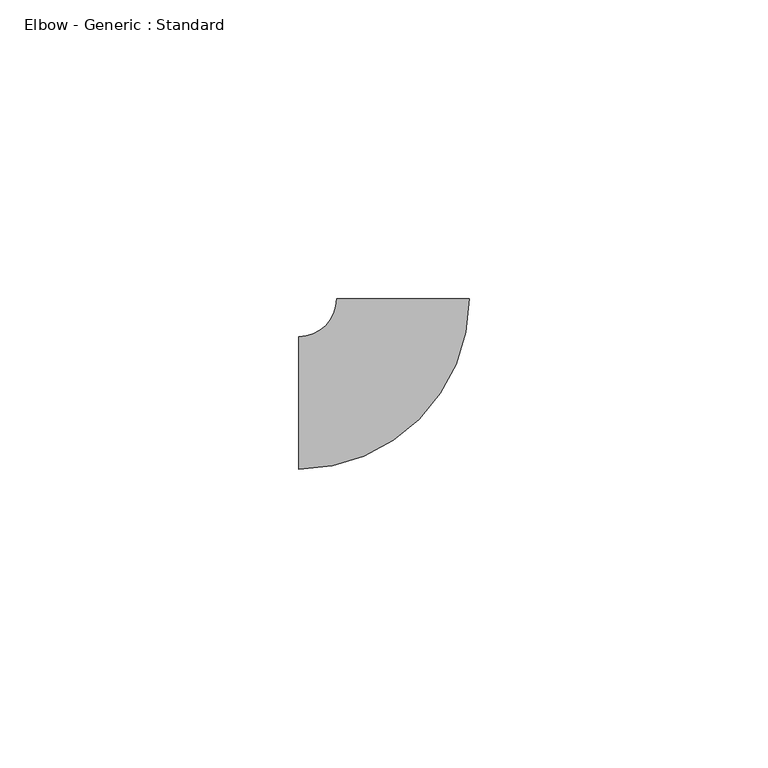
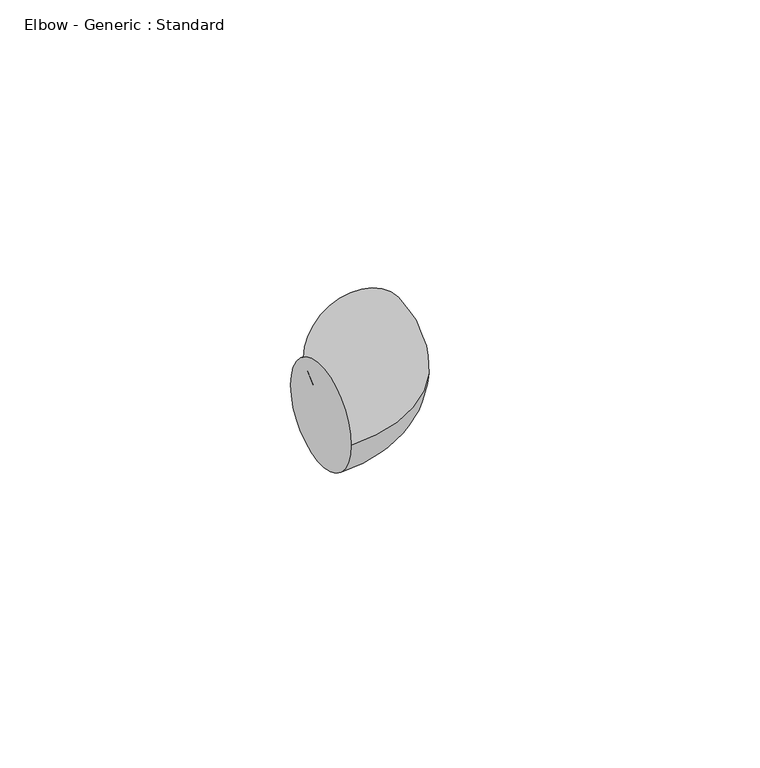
"""IFC4 building model written with IfcOpenShell, lengths in millimetres: pipe fitting geometry, Elbow - Generic : Standard."""

from ifc_helpers import new_model, si_unit, point, frame, origin, place, context, project, spatial, circle_curve, ellipse_curve, trimmed, source, transform, mapped, element, save
from ifc_brep_helpers import plane_surface, revolved_surface, advanced_brep


def elbow_generic_standard_9ba8e076(model_context):
    return source(origin(), model_context, "Body", "AdvancedBrep", [
        advanced_brep(
        [(-17.4375, -11.0875, 0.0), (-17.4375, 11.0875, 0.0), (11.0875, 17.4375, 0.0), (-11.0875, 17.4375, 0.0)],
        [
            (0, 1, circle_curve(frame((-17.4375, 0.0, 0.0), z_axis=(-1.0, 0.0, 0.0), x_axis=(0.0, 1.0, 0.0)), 11.0875)),
            (1, 0, circle_curve(frame((-17.4375, 0.0, 0.0), z_axis=(-1.0, 0.0, 0.0), x_axis=(0.0, 1.0, 0.0)), 11.0875)),
            (2, 3, circle_curve(frame((0.0, 17.4375, 0.0), z_axis=(0.0, 1.0, 0.0), x_axis=(-1.0, 0.0, 0.0)), 11.0875)),
            (3, 2, circle_curve(frame((0.0, 17.4375, 0.0), z_axis=(0.0, 1.0, 0.0), x_axis=(-1.0, 0.0, 0.0)), 11.0875)),
            (3, 1, circle_curve(frame((-17.4375, 17.4375, 0.0), z_axis=(0.0, 0.0, -1.0), x_axis=(0.0, -1.0, 0.0)), 6.35)),
            (0, 2, circle_curve(frame((-17.4375, 17.4375, 0.0), z_axis=(0.0, 0.0, 1.0), x_axis=(0.0, -1.0, 0.0)), 28.525)),
        ],
        [
            plane_surface(frame((-17.4375, 0.0, 0.0), z_axis=(-1.0, 0.0, 0.0), x_axis=(0.0, 0.0, 1.0))),
            plane_surface(frame((0.0, 17.4375, 0.0), z_axis=(0.0, 1.0, 0.0), x_axis=(0.0, 0.0, 1.0))),
            revolved_surface(trimmed(ellipse_curve(frame((-17.4375, 0.0, 0.0), z_axis=(-1.0, 0.0, 0.0), x_axis=(0.0, 1.0, 0.0)), 11.0875, 11.0875), [point((-17.4375, -11.0875, 0.0))], [point((-17.4375, 11.0875, 0.0))], True, "CARTESIAN"), (-17.4375, 17.4375, 0.0), (0.0, 0.0, 1.0)),
            revolved_surface(trimmed(ellipse_curve(frame((-17.4375, 0.0, 0.0), z_axis=(-1.0, 0.0, 0.0), x_axis=(0.0, 1.0, 0.0)), 11.0875, 11.0875), [point((-17.4375, 11.0875, 0.0))], [point((-17.4375, -11.0875, 0.0))], True, "CARTESIAN"), (-17.4375, 17.4375, 0.0), (0.0, 0.0, 1.0)),
        ],
        [
            (0, [[1, 2]]),
            (1, [[3, 4]]),
            (2, [[5, -1, 6, -4]]),
            (3, [[-6, -2, -5, -3]]),
        ],
    ),
    ])


if __name__ == "__main__":
    model = new_model("IFC4")
    model_context = context("Model", 3, world=origin())
    ifc_project = project(units=[si_unit("LENGTHUNIT", "METRE", prefix="MILLI")], contexts=[model_context])
    site = spatial("IfcSite", under=ifc_project)
    building = spatial("IfcBuilding", under=site)
    placement = place(None, origin())
    elbow_generic_standard_shape = elbow_generic_standard_9ba8e076(model_context)
    element("IfcPipeFitting", 1, ObjectType="Elbow - Generic : Standard", at=placement, inside=building, context=model_context, shape_type="MappedRepresentation", body=[
        mapped(elbow_generic_standard_shape, transform((0.0, 0.0, 0.0), x_axis=(1.0, 0.0, 0.0), y_axis=(0.0, 1.0, 0.0), z_axis=(0.0, 0.0, 1.0))),
    ])
    save(model, "model.ifc")
